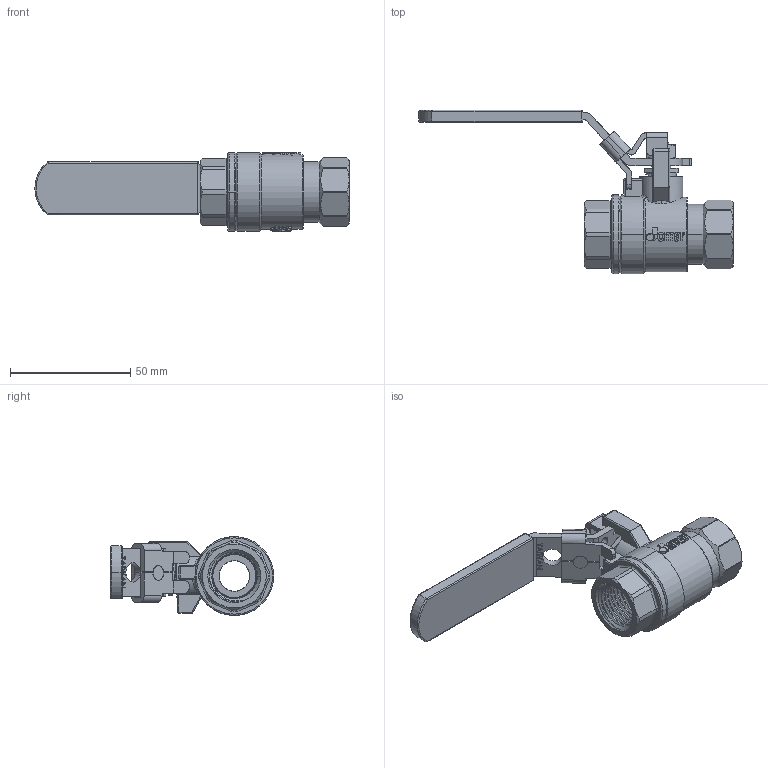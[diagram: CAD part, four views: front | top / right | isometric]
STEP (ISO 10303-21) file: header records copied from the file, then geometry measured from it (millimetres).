
FILE_DESCRIPTION (( 'STEP AP203' ), '1' );
FILE_NAME ('ABL743-Τ本玛-0.5''''JOMAR瞴恢砰舱.STEP', '2025-12-15T07:42:11', ( '' ), ( '' ), 'SwSTEP 2.0', 'SolidWorks 2018', '' );
FILE_SCHEMA (( 'CONFIG_CONTROL_DESIGN' ));
Length unit declared in the file: millimetre
Products named in the file (14): DN15-CBL211э; BBL703-0.5''''JOMAR球閥體-無鉛-端面無插溝; RBL263; NBL262; GBL211; EBL203A; ABL743-有掛鎖-0.5''''JOMAR球閥體組合; DN15-掛鎖; TBL163-無鑽孔; BBL703A-0.5''''JOMAR球閥八角頭-無鉛-端面無插溝; EBL203B; EBL203; DN8 & DN15-CBL743-白色膠套-T&G-200CSSG-LH; DN15-CBL743-LATCH LOCK HANDLE 組合
Assembly tree (14 placements, depth 3):
  ABL743-有掛鎖-0.5''''JOMAR球閥體組合
    BBL703-0.5''''JOMAR球閥體-無鉛-端面無插溝
    EBL203A
    EBL203B
    GBL211
    RBL263
    TBL163-無鑽孔
    BBL703A-0.5''''JOMAR球閥八角頭-無鉛-端面無插溝
    EBL203  x2
    DN15-CBL743-LATCH LOCK HANDLE 組合
      DN15-CBL211э
      DN15-掛鎖
    NBL262
    DN8 & DN15-CBL743-白色膠套-T&G-200CSSG-LH
Bounding box: 130.45 x 67.86 x 32.7 mm (x, y, z)
Volume: 42572.7 mm3; surface area: 38387.9 mm2
Topology: 13 solids, 13 shells, 2388 faces, 6413 edges, 4225 vertices
Faces by surface type: plane 1252, bspline 681, cylinder 292, cone 121, torus 30, sphere 12
Entity records: 129965 total; most frequent: CARTESIAN_POINT 74395, ORIENTED_EDGE 12750, DIRECTION 8491, EDGE_CURVE 6375, VERTEX_POINT 4207, LINE 3931, VECTOR 3931, EDGE_LOOP 2586
